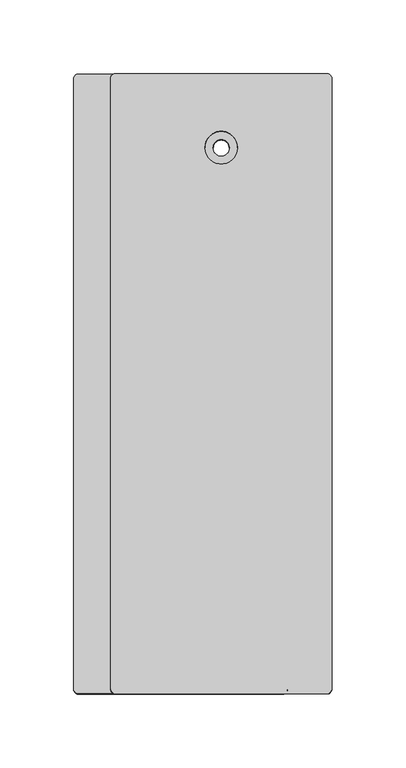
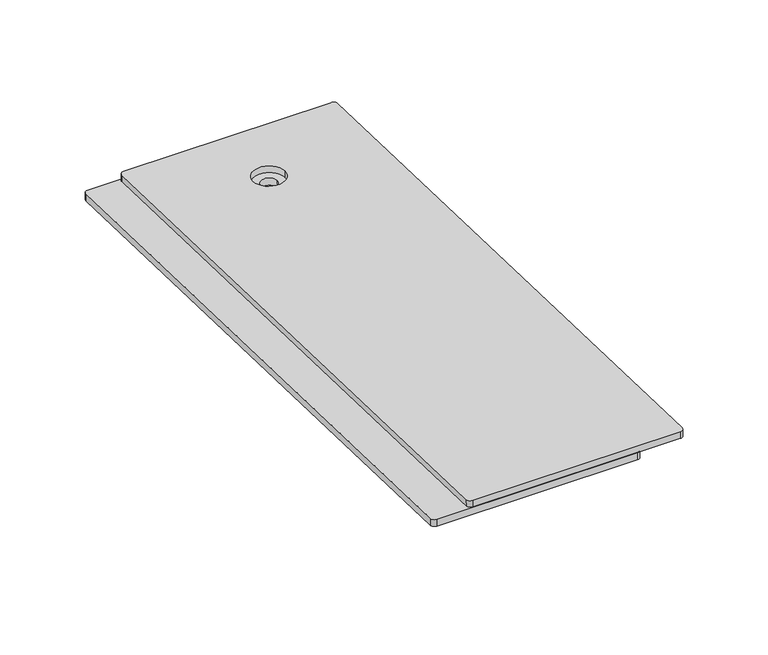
"""IFC4 building model written with IfcOpenShell, lengths in millimetres: proxy geometry, ML PhotonRoof Flat Anthracite Premium : 0.5X-P."""

from ifc_helpers import new_model, si_unit, point, frame, frame_2d, origin, place, context, project, spatial, polyline, circle_curve, trimmed, segment, composite_curve, outline, extrude, source, transform, mapped, element, save


def specialty_equipment_79304ab4(model_context):
    return source(origin(), model_context, "Body", "SweptSolid", [
        extrude(outline(composite_curve([segment(trimmed(circle_curve(frame_2d((80.972122, -3.0)), 3.0), [point((80.972122, 0.0))], [point((83.972122, -3.0))], False, "CARTESIAN"), True, "CONTINUOUS"), segment(polyline([(83.972122, -3.0), (83.972122, -417.0)]), True, "CONTINUOUS"), segment(trimmed(circle_curve(frame_2d((80.972122, -417.0)), 3.0), [point((83.972122, -417.0))], [point((80.972122, -420.0))], False, "CARTESIAN"), True, "CONTINUOUS"), segment(polyline([(80.972122, -420.0), (-58.027878, -420.0)]), True, "CONTINUOUS"), segment(trimmed(circle_curve(frame_2d((-58.027878, -417.0)), 3.0), [point((-58.027878, -420.0))], [point((-61.027878, -417.0))], False, "CARTESIAN"), True, "CONTINUOUS"), segment(polyline([(-61.027878, -417.0), (-61.027878, -3.0)]), True, "CONTINUOUS"), segment(trimmed(circle_curve(frame_2d((-58.027878, -3.0)), 3.0), [point((-61.027878, -3.0))], [point((-58.027878, 0.0))], False, "CARTESIAN"), True, "CONTINUOUS"), segment(polyline([(-58.027878, 0.0), (80.972122, 0.0)]), True, "CONTINUOUS")], self_intersect=False), holes=[composite_curve([segment(trimmed(circle_curve(frame_2d((38.972122, -50.0)), 5.5), [point((33.472122, -50.0))], [point((44.472122, -50.0))], True, "CARTESIAN"), True, "CONTINUOUS"), segment(trimmed(circle_curve(frame_2d((38.972122, -50.0)), 5.5), [point((44.472122, -50.0))], [point((33.472122, -50.0))], True, "CARTESIAN"), True, "CONTINUOUS")], self_intersect=False)]), frame((-113.972122, 49.9753244, -1.5706531), z_axis=(0.0, 0.031413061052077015, 0.9995064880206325), x_axis=(1.0, 0.0, 0.0)), (0.0, 0.0, 1.0), 5.0),
        extrude(outline(composite_curve([segment(trimmed(circle_curve(frame_2d((234.9847867, -3.0)), 3.0), [point((234.9847867, 0.0))], [point((237.9847867, -3.0))], False, "CARTESIAN"), True, "CONTINUOUS"), segment(polyline([(237.9847867, -3.0), (237.9847867, -417.0)]), True, "CONTINUOUS"), segment(trimmed(circle_curve(frame_2d((234.9847867, -417.0)), 3.0), [point((237.9847867, -417.0))], [point((234.9847867, -420.0))], False, "CARTESIAN"), True, "CONTINUOUS"), segment(polyline([(234.9847867, -420.0), (90.9847867, -420.0)]), True, "CONTINUOUS"), segment(trimmed(circle_curve(frame_2d((90.9847867, -417.0)), 3.0), [point((90.9847867, -420.0))], [point((87.9847867, -417.0))], False, "CARTESIAN"), True, "CONTINUOUS"), segment(polyline([(87.9847867, -417.0), (87.9847867, -3.0)]), True, "CONTINUOUS"), segment(trimmed(circle_curve(frame_2d((90.9847867, -3.0)), 3.0), [point((87.9847867, -3.0))], [point((90.9847867, 0.0))], False, "CARTESIAN"), True, "CONTINUOUS"), segment(polyline([(90.9847867, 0.0), (234.9847867, 0.0)]), True, "CONTINUOUS")], self_intersect=False), holes=[composite_curve([segment(trimmed(circle_curve(frame_2d((162.9847867, -50.0)), 11.0), [point((151.9847867, -50.0))], [point((173.9847867, -50.0))], True, "CARTESIAN"), True, "CONTINUOUS"), segment(trimmed(circle_curve(frame_2d((162.9847867, -50.0)), 11.0), [point((173.9847867, -50.0))], [point((151.9847867, -50.0))], True, "CARTESIAN"), True, "CONTINUOUS")], self_intersect=False)]), frame((-237.9847867, 50.1323897, 3.4268794), z_axis=(0.0, 0.031413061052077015, 0.9995064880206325), x_axis=(1.0, 0.0, 0.0)), (0.0, 0.0, 1.0), 5.0),
        extrude(outline(polyline([(43.9782855, -1.3821747), (43.9154594, -3.3811877), (26.9238491, -2.8471656), (26.358414, -20.8382824), (23.3598945, -20.7440432), (23.9881557, -0.7539135), (43.9782855, -1.3821747)])), frame((-100.0, 0.0, 0.0), z_axis=(1.0, 0.0, 0.0), x_axis=(0.0, 1.0, 0.0)), (0.0, 0.0, 1.0), 50.0),
    ])


if __name__ == "__main__":
    model = new_model("IFC4")
    model_context = context("Model", 3, world=origin())
    ifc_project = project(units=[si_unit("LENGTHUNIT", "METRE", prefix="MILLI")], contexts=[model_context])
    site = spatial("IfcSite", under=ifc_project)
    building = spatial("IfcBuilding", under=site)
    placement = place(None, origin())
    specialty_equipment_shape = specialty_equipment_79304ab4(model_context)
    element("IfcBuildingElementProxy", 1, Name="ML PhotonRoof Flat Anthracite Premium : 0.5X-P", ObjectType="ML PhotonRoof Flat Anthracite Premium : 0.5X-P", at=placement, inside=building, context=model_context, shape_type="MappedRepresentation", body=[
        mapped(specialty_equipment_shape, transform((0.0, 0.0, 0.0), x_axis=(1.0, 0.0, 0.0), y_axis=(0.0, 1.0, 0.0), z_axis=(0.0, 0.0, 1.0))),
    ])
    save(model, "model.ifc")
